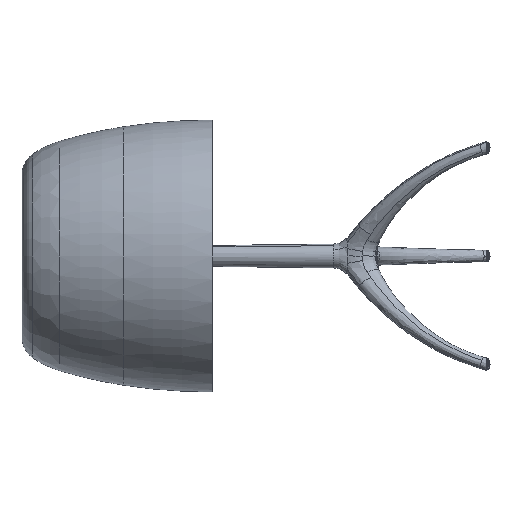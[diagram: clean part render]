
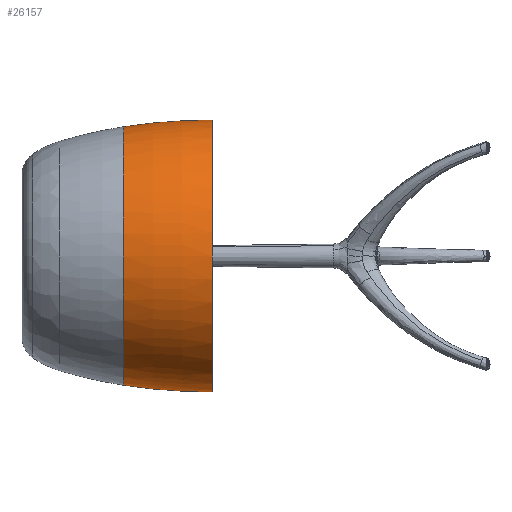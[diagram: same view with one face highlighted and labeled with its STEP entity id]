
A CAD part, left-side view. The second image highlights one B-rep face of the part: STEP entity #26157.
In plain terms, the highlighted toroidal (fillet/blend) face has major radius 317.984 mm and minor radius 418.005 mm.
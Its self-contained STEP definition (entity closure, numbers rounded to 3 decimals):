
#2500 = DIRECTION ( 'NONE',  ( 0., 0., -1. ) ) ;
#4251 = TOROIDAL_SURFACE ( 'NONE', #63102, -317.984, 418.005 ) ;
#4943 = CIRCLE ( 'NONE', #9823, 418.005 ) ;
#6207 = EDGE_CURVE ( 'NONE', #18765, #51759, #72125, .T. ) ;
#6577 = CARTESIAN_POINT ( 'NONE',  ( -48.822, 283.678, 109.886 ) ) ;
#7191 = EDGE_CURVE ( 'NONE', #21600, #78740, #33868, .T. ) ;
#7382 = CARTESIAN_POINT ( 'NONE',  ( -48.822, 283.678, 14.772 ) ) ;
#7930 = CARTESIAN_POINT ( 'NONE',  ( -48.822, 219.824, 332.756 ) ) ;
#8537 = DIRECTION ( 'NONE',  ( 0., 0., -1. ) ) ;
#8913 = DIRECTION ( 'NONE',  ( 0., 0., 1. ) ) ;
#9685 = FACE_OUTER_BOUND ( 'NONE', #96567, .T. ) ;
#9823 = AXIS2_PLACEMENT_3D ( 'NONE', #42430, #80785, #2500 ) ;
#11702 = DIRECTION ( 'NONE',  ( 0., 0., -1. ) ) ;
#12959 = ORIENTED_EDGE ( 'NONE', *, *, #40393, .F. ) ;
#15699 = CARTESIAN_POINT ( 'NONE',  ( -48.822, 218.278, 14.772 ) ) ;
#18765 = VERTEX_POINT ( 'NONE', #97111 ) ;
#21600 = VERTEX_POINT ( 'NONE', #6577 ) ;
#24725 = DIRECTION ( 'NONE',  ( 0., -1., 0. ) ) ;
#26157 = ADVANCED_FACE ( 'NONE', ( #9685 ), #4251, .T. ) ;
#28025 = AXIS2_PLACEMENT_3D ( 'NONE', #15699, #78152, #8537 ) ;
#33868 = CIRCLE ( 'NONE', #97584, 95.115 ) ;
#36852 = ORIENTED_EDGE ( 'NONE', *, *, #101085, .T. ) ;
#37970 = ORIENTED_EDGE ( 'NONE', *, *, #6207, .F. ) ;
#39941 = ORIENTED_EDGE ( 'NONE', *, *, #7191, .T. ) ;
#40393 = EDGE_CURVE ( 'NONE', #21600, #18765, #4943, .T. ) ;
#42430 = CARTESIAN_POINT ( 'NONE',  ( -48.822, 219.824, -303.212 ) ) ;
#46670 = CARTESIAN_POINT ( 'NONE',  ( -48.822, 218.278, -85.246 ) ) ;
#47293 = DIRECTION ( 'NONE',  ( 0., 0., -1. ) ) ;
#47574 = AXIS2_PLACEMENT_3D ( 'NONE', #7930, #78549, #8913 ) ;
#51136 = DIRECTION ( 'NONE',  ( 0., -1., 0. ) ) ;
#51759 = VERTEX_POINT ( 'NONE', #46670 ) ;
#63102 = AXIS2_PLACEMENT_3D ( 'NONE', #80793, #51136, #11702 ) ;
#72125 = CIRCLE ( 'NONE', #28025, 100.018 ) ;
#78152 = DIRECTION ( 'NONE',  ( 0., -1., 0. ) ) ;
#78549 = DIRECTION ( 'NONE',  ( -1., 0., 0. ) ) ;
#78740 = VERTEX_POINT ( 'NONE', #92841 ) ;
#80785 = DIRECTION ( 'NONE',  ( 1., 0., 0. ) ) ;
#80793 = CARTESIAN_POINT ( 'NONE',  ( -48.822, 219.824, 14.772 ) ) ;
#81871 = CIRCLE ( 'NONE', #47574, 418.005 ) ;
#92841 = CARTESIAN_POINT ( 'NONE',  ( -48.822, 283.678, -80.343 ) ) ;
#96567 = EDGE_LOOP ( 'NONE', ( #12959, #39941, #36852, #37970 ) ) ;
#97111 = CARTESIAN_POINT ( 'NONE',  ( -48.822, 218.278, 114.789 ) ) ;
#97584 = AXIS2_PLACEMENT_3D ( 'NONE', #7382, #24725, #47293 ) ;
#101085 = EDGE_CURVE ( 'NONE', #78740, #51759, #81871, .T. ) ;
